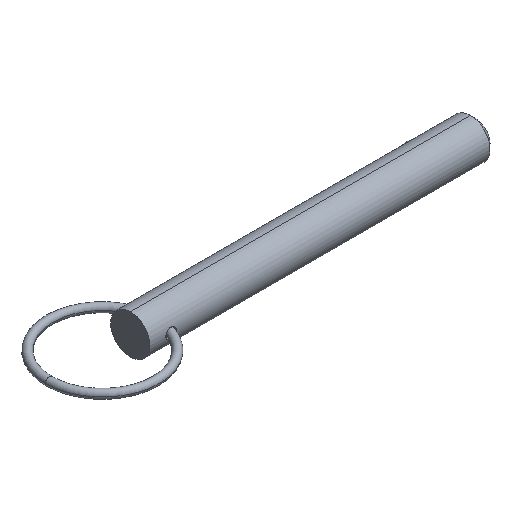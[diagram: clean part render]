
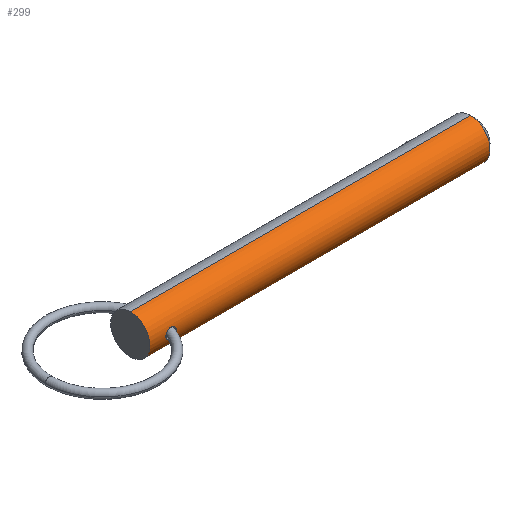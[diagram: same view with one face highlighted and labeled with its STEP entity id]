
A CAD part, isometric view. The second image highlights one B-rep face of the part: STEP entity #299.
In plain terms, the highlighted cylindrical face has radius 4.7 mm (diameter 9.4 mm), a partial arc.
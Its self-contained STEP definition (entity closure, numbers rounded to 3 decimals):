
#1 = CARTESIAN_POINT ( 'NONE',  ( 6.094, -4.642, -0.742 ) ) ;
#12 = DIRECTION ( 'NONE',  ( 0., 0., -1. ) ) ;
#37 = AXIS2_PLACEMENT_3D ( 'NONE', #365, #360, #12 ) ;
#41 = CARTESIAN_POINT ( 'NONE',  ( 6.35, -4.7, 0.161 ) ) ;
#42 = EDGE_CURVE ( 'NONE', #291, #382, #141, .T. ) ;
#45 = CARTESIAN_POINT ( 'NONE',  ( 5.861, -4.601, 0.96 ) ) ;
#61 = CARTESIAN_POINT ( 'NONE',  ( 4.108, -4.644, 0.73 ) ) ;
#68 = CYLINDRICAL_SURFACE ( 'NONE', #342, 4.7 ) ;
#70 = CARTESIAN_POINT ( 'NONE',  ( 4.785, -4.561, -1.135 ) ) ;
#73 = CARTESIAN_POINT ( 'NONE',  ( 6.318, -4.691, -0.32 ) ) ;
#76 = CIRCLE ( 'NONE', #571, 4.7 ) ;
#77 = CARTESIAN_POINT ( 'NONE',  ( 3.818, -4.7, 0. ) ) ;
#91 = CIRCLE ( 'NONE', #37, 4.7 ) ;
#96 = CARTESIAN_POINT ( 'NONE',  ( 3.829, -4.698, -0.161 ) ) ;
#131 = CARTESIAN_POINT ( 'NONE',  ( 5.926, -4.611, 0.911 ) ) ;
#137 = CARTESIAN_POINT ( 'NONE',  ( 6.223, -4.669, -0.542 ) ) ;
#141 = B_SPLINE_CURVE_WITH_KNOTS ( 'NONE', 3,
 ( #174, #183, #720, #706, #61, #650, #192, #583, #654, #371, #462, #381, #180, #264, #307, #45, #131, #646, #311, #595, #41, #260 ),
 .UNSPECIFIED., .F., .F.,
 ( 4, 2, 2, 2, 2, 2, 2, 2, 2, 2, 4 ),
 ( 0.001, 0.001, 0.002, 0.002, 0.003, 0.003, 0.003, 0.004, 0.004, 0.004, 0.005 ),
 .UNSPECIFIED. ) ;
#143 = CARTESIAN_POINT ( 'NONE',  ( 6.041, -4.631, -0.803 ) ) ;
#148 = CARTESIAN_POINT ( 'NONE',  ( 0., 0., -4.7 ) ) ;
#171 = LINE ( 'NONE', #305, #657 ) ;
#174 = CARTESIAN_POINT ( 'NONE',  ( 3.818, -4.7, 0. ) ) ;
#180 = CARTESIAN_POINT ( 'NONE',  ( 5.503, -4.562, 1.13 ) ) ;
#183 = CARTESIAN_POINT ( 'NONE',  ( 3.818, -4.7, 0.16 ) ) ;
#192 = CARTESIAN_POINT ( 'NONE',  ( 4.491, -4.588, 1.02 ) ) ;
#201 = CARTESIAN_POINT ( 'NONE',  ( 6.35, -4.7, 0. ) ) ;
#206 = CARTESIAN_POINT ( 'NONE',  ( 5.427, -4.556, -1.156 ) ) ;
#215 = VECTOR ( 'NONE', #791, 1000. ) ;
#226 = DIRECTION ( 'NONE',  ( 0., 0., -1. ) ) ;
#236 = EDGE_CURVE ( 'NONE', #563, #808, #615, .T. ) ;
#260 = CARTESIAN_POINT ( 'NONE',  ( 6.35, -4.7, 0. ) ) ;
#264 = CARTESIAN_POINT ( 'NONE',  ( 5.654, -4.575, 1.076 ) ) ;
#267 = CARTESIAN_POINT ( 'NONE',  ( 3.895, -4.684, -0.39 ) ) ;
#269 = B_SPLINE_CURVE_WITH_KNOTS ( 'NONE', 3,
 ( #201, #859, #73, #137, #271, #1, #143, #543, #412, #206, #474, #733, #70, #802, #343, #334, #675, #267, #535, #96, #751, #546 ),
 .UNSPECIFIED., .F., .F.,
 ( 4, 2, 2, 2, 2, 2, 2, 2, 2, 2, 4 ),
 ( 0.005, 0.005, 0.005, 0.006, 0.006, 0.007, 0.007, 0.008, 0.008, 0.008, 0.009 ),
 .UNSPECIFIED. ) ;
#271 = CARTESIAN_POINT ( 'NONE',  ( 6.185, -4.66, -0.612 ) ) ;
#291 = VERTEX_POINT ( 'NONE', #77 ) ;
#299 = ADVANCED_FACE ( 'NONE', ( #407, #464 ), #68, .T. ) ;
#305 = CARTESIAN_POINT ( 'NONE',  ( 0., 0., 4.7 ) ) ;
#307 = CARTESIAN_POINT ( 'NONE',  ( 5.725, -4.583, 1.042 ) ) ;
#311 = CARTESIAN_POINT ( 'NONE',  ( 6.193, -4.662, 0.614 ) ) ;
#320 = EDGE_LOOP ( 'NONE', ( #736, #569 ) ) ;
#330 = CARTESIAN_POINT ( 'NONE',  ( 0., 0., -4.7 ) ) ;
#334 = CARTESIAN_POINT ( 'NONE',  ( 4.107, -4.644, -0.729 ) ) ;
#342 = AXIS2_PLACEMENT_3D ( 'NONE', #767, #541, #723 ) ;
#343 = CARTESIAN_POINT ( 'NONE',  ( 4.349, -4.607, -0.937 ) ) ;
#346 = VERTEX_POINT ( 'NONE', #605 ) ;
#360 = DIRECTION ( 'NONE',  ( 1., 0., 0. ) ) ;
#365 = CARTESIAN_POINT ( 'NONE',  ( 0., 0., 0. ) ) ;
#371 = CARTESIAN_POINT ( 'NONE',  ( 5.187, -4.55, 1.177 ) ) ;
#381 = CARTESIAN_POINT ( 'NONE',  ( 5.424, -4.557, 1.149 ) ) ;
#382 = VERTEX_POINT ( 'NONE', #600 ) ;
#394 = EDGE_CURVE ( 'NONE', #382, #291, #269, .T. ) ;
#407 = FACE_OUTER_BOUND ( 'NONE', #775, .T. ) ;
#412 = CARTESIAN_POINT ( 'NONE',  ( 5.727, -4.582, -1.05 ) ) ;
#445 = VERTEX_POINT ( 'NONE', #494 ) ;
#462 = CARTESIAN_POINT ( 'NONE',  ( 5.266, -4.551, 1.173 ) ) ;
#464 = FACE_BOUND ( 'NONE', #320, .T. ) ;
#474 = CARTESIAN_POINT ( 'NONE',  ( 5.265, -4.55, -1.18 ) ) ;
#486 = ORIENTED_EDGE ( 'NONE', *, *, #674, .F. ) ;
#493 = EDGE_CURVE ( 'NONE', #445, #563, #91, .T. ) ;
#494 = CARTESIAN_POINT ( 'NONE',  ( 0., 0., 4.7 ) ) ;
#534 = EDGE_CURVE ( 'NONE', #346, #808, #76, .T. ) ;
#535 = CARTESIAN_POINT ( 'NONE',  ( 3.867, -4.69, -0.315 ) ) ;
#541 = DIRECTION ( 'NONE',  ( 1., 0., 0. ) ) ;
#543 = CARTESIAN_POINT ( 'NONE',  ( 5.867, -4.601, -0.966 ) ) ;
#546 = CARTESIAN_POINT ( 'NONE',  ( 3.818, -4.7, 0. ) ) ;
#563 = VERTEX_POINT ( 'NONE', #148 ) ;
#569 = ORIENTED_EDGE ( 'NONE', *, *, #394, .T. ) ;
#571 = AXIS2_PLACEMENT_3D ( 'NONE', #632, #698, #226 ) ;
#573 = DIRECTION ( 'NONE',  ( 1., 0., 0. ) ) ;
#583 = CARTESIAN_POINT ( 'NONE',  ( 4.788, -4.561, 1.135 ) ) ;
#595 = CARTESIAN_POINT ( 'NONE',  ( 6.317, -4.691, 0.321 ) ) ;
#600 = CARTESIAN_POINT ( 'NONE',  ( 6.35, -4.7, 0. ) ) ;
#605 = CARTESIAN_POINT ( 'NONE',  ( 81.375, 0., 4.7 ) ) ;
#615 = LINE ( 'NONE', #330, #215 ) ;
#632 = CARTESIAN_POINT ( 'NONE',  ( 81.375, 0., 0. ) ) ;
#646 = CARTESIAN_POINT ( 'NONE',  ( 6.1, -4.641, 0.749 ) ) ;
#650 = CARTESIAN_POINT ( 'NONE',  ( 4.352, -4.607, 0.938 ) ) ;
#654 = CARTESIAN_POINT ( 'NONE',  ( 4.947, -4.552, 1.169 ) ) ;
#657 = VECTOR ( 'NONE', #573, 1000. ) ;
#674 = EDGE_CURVE ( 'NONE', #445, #346, #171, .T. ) ;
#675 = CARTESIAN_POINT ( 'NONE',  ( 4.005, -4.663, -0.605 ) ) ;
#698 = DIRECTION ( 'NONE',  ( 1., 0., 0. ) ) ;
#706 = CARTESIAN_POINT ( 'NONE',  ( 4.005, -4.663, 0.605 ) ) ;
#720 = CARTESIAN_POINT ( 'NONE',  ( 3.859, -4.691, 0.32 ) ) ;
#723 = DIRECTION ( 'NONE',  ( 0., 0., -1. ) ) ;
#733 = CARTESIAN_POINT ( 'NONE',  ( 4.945, -4.552, -1.169 ) ) ;
#736 = ORIENTED_EDGE ( 'NONE', *, *, #42, .T. ) ;
#745 = ORIENTED_EDGE ( 'NONE', *, *, #493, .T. ) ;
#751 = CARTESIAN_POINT ( 'NONE',  ( 3.818, -4.7, -0.08 ) ) ;
#761 = ORIENTED_EDGE ( 'NONE', *, *, #534, .F. ) ;
#767 = CARTESIAN_POINT ( 'NONE',  ( 0., 0., 0. ) ) ;
#775 = EDGE_LOOP ( 'NONE', ( #486, #745, #829, #761 ) ) ;
#789 = CARTESIAN_POINT ( 'NONE',  ( 81.375, 0., -4.7 ) ) ;
#791 = DIRECTION ( 'NONE',  ( 1., 0., 0. ) ) ;
#802 = CARTESIAN_POINT ( 'NONE',  ( 4.487, -4.589, -1.018 ) ) ;
#808 = VERTEX_POINT ( 'NONE', #789 ) ;
#829 = ORIENTED_EDGE ( 'NONE', *, *, #236, .T. ) ;
#859 = CARTESIAN_POINT ( 'NONE',  ( 6.35, -4.7, -0.161 ) ) ;
